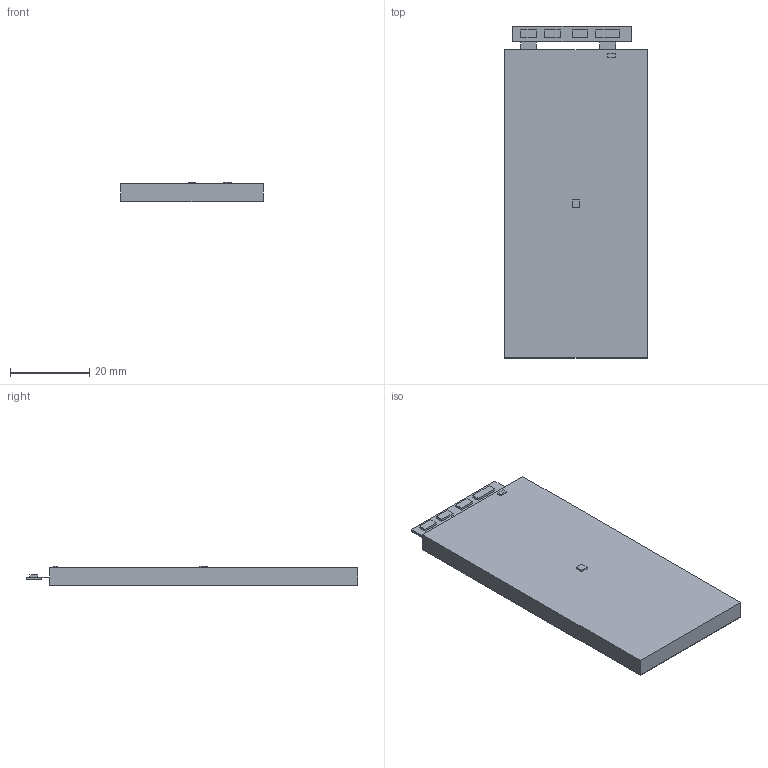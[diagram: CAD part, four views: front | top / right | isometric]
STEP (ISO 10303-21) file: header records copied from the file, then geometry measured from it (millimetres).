
FILE_DESCRIPTION(('FreeCAD Model'),'2;1');
FILE_NAME('Open CASCADE Shape Model','2026-10-16T12:25:01',('FreeCAD'),( 'FreeCAD'),'Open CASCADE STEP processor 7.8','FreeCAD','Unknown');
FILE_SCHEMA(('AUTOMOTIVE_DESIGN { 1 0 10303 214 1 1 1 1 }'));
Length unit declared in the file: millimetre
Products named in the file (1): Open CASCADE STEP translator 7.8 2
Bounding box: 36 x 84 x 5 mm (x, y, z)
Volume: 13016 mm3; surface area: 12719.2 mm2
Topology: 11 solids, 11 shells, 66 faces, 132 edges, 88 vertices
Faces by surface type: plane 66
Entity records: 1666 total; most frequent: CARTESIAN_POINT 287, DIRECTION 266, ORIENTED_EDGE 264, EDGE_CURVE 132, LINE 132, VECTOR 132, VERTEX_POINT 88, AXIS2_PLACEMENT_3D 67
